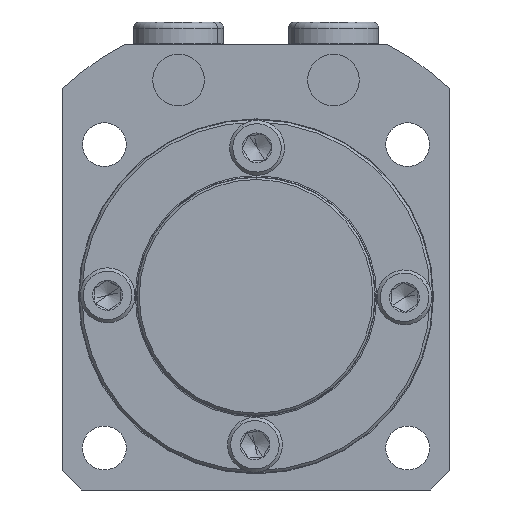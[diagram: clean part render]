
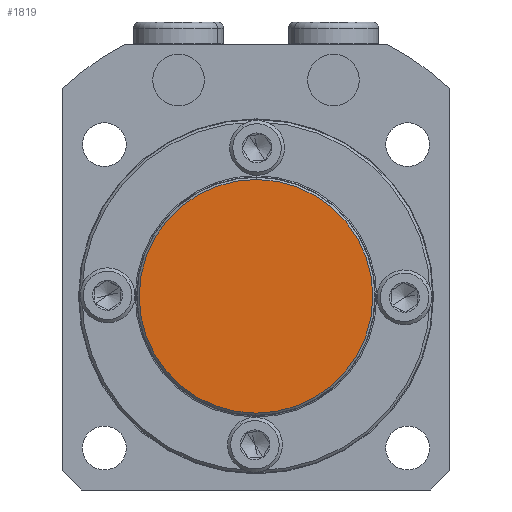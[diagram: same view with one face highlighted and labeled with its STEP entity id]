
A CAD part, front view. The second image highlights one B-rep face of the part: STEP entity #1819.
In plain terms, the highlighted planar face has unit normal (0, -1, 0).
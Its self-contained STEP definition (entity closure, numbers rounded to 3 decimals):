
#375 = VERTEX_POINT ( 'NONE', #2273 ) ;
#377 = VERTEX_POINT ( 'NONE', #2275 ) ;
#550 = EDGE_CURVE ( 'NONE', #377, #375, #4164, .T. ) ;
#1819 = ADVANCED_FACE ( 'NONE', ( #4750 ), #4751, .T. ) ;
#1872 = AXIS2_PLACEMENT_3D ( 'NONE', #3373, #3374, #3375 ) ;
#1966 = EDGE_CURVE ( 'NONE', #375, #377, #2049, .T. ) ;
#2049 = CIRCLE ( 'NONE', #1872, 18.1 ) ;
#2273 = CARTESIAN_POINT ( 'NONE',  ( 0., -10., -18.1 ) ) ;
#2275 = CARTESIAN_POINT ( 'NONE',  ( 0., -10., 18.1 ) ) ;
#2349 = CARTESIAN_POINT ( 'NONE',  ( 0., -10., 0. ) ) ;
#2350 = DIRECTION ( 'NONE',  ( 0., -1., 0. ) ) ;
#2351 = DIRECTION ( 'NONE',  ( 0., 0., -1. ) ) ;
#3373 = CARTESIAN_POINT ( 'NONE',  ( 0., -10., 0. ) ) ;
#3374 = DIRECTION ( 'NONE',  ( 0., -1., 0. ) ) ;
#3375 = DIRECTION ( 'NONE',  ( 0., 0., -1. ) ) ;
#3835 = EDGE_LOOP ( 'NONE', ( #5125, #5126 ) ) ;
#4125 = AXIS2_PLACEMENT_3D ( 'NONE', #4742, #4754, #4755 ) ;
#4164 = CIRCLE ( 'NONE', #4320, 18.1 ) ;
#4320 = AXIS2_PLACEMENT_3D ( 'NONE', #2349, #2350, #2351 ) ;
#4742 = CARTESIAN_POINT ( 'NONE',  ( 0., -10., 0. ) ) ;
#4750 = FACE_OUTER_BOUND ( 'NONE', #3835, .T. ) ;
#4751 = PLANE ( 'NONE',  #4125 ) ;
#4754 = DIRECTION ( 'NONE',  ( 0., -1., 0. ) ) ;
#4755 = DIRECTION ( 'NONE',  ( 0., 0., -1. ) ) ;
#5125 = ORIENTED_EDGE ( 'NONE', *, *, #550, .T. ) ;
#5126 = ORIENTED_EDGE ( 'NONE', *, *, #1966, .T. ) ;
